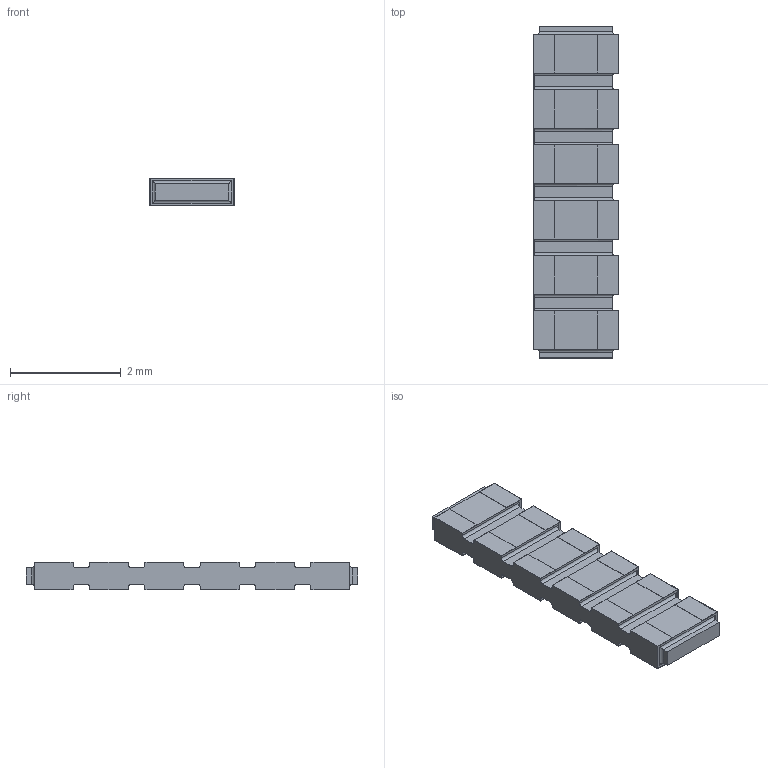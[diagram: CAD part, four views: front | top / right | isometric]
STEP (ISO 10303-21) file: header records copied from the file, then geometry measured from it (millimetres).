
FILE_DESCRIPTION(/* description */ (''),/* implementation_level */ '2;1');
FILE_NAME(/* name */ 'S:\DOCUMENT\AUTOCAD\3D_Modèles\10_3D-pour-VISHAY-COM\PRA\PRA100\PRA100-C2_à_C8\20_STEP\PRA100C6_B-or-N-or-G.stp',/* time_stamp */ '2017-12-18T09:21:16+01:00',/* author */ ('dparmentier'),/* organization */ ('unknown'),/* preprocessor_version */ 'ST-DEVELOPER v17',/* originating_system */ 'Autodesk Inventor 2018',/* authorisation */ '');
FILE_SCHEMA (('AUTOMOTIVE_DESIGN { 1 0 10303 214 3 1 1 }'));
Length unit declared in the file: millimetre
Products named in the file (1): PRA100C6_B-or-N-or-G
Bounding box: 1.52 x 6 x 0.5 mm (x, y, z)
Volume: 3.9 mm3; surface area: 48.9 mm2
Topology: 8 solids, 8 shells, 244 faces, 650 edges, 424 vertices
Faces by surface type: plane 186, cylinder 58
Entity records: 7524 total; most frequent: CARTESIAN_POINT 1319, ORIENTED_EDGE 1300, DIRECTION 1228, EDGE_CURVE 650, LINE 562, VECTOR 562, VERTEX_POINT 424, AXIS2_PLACEMENT_3D 333
